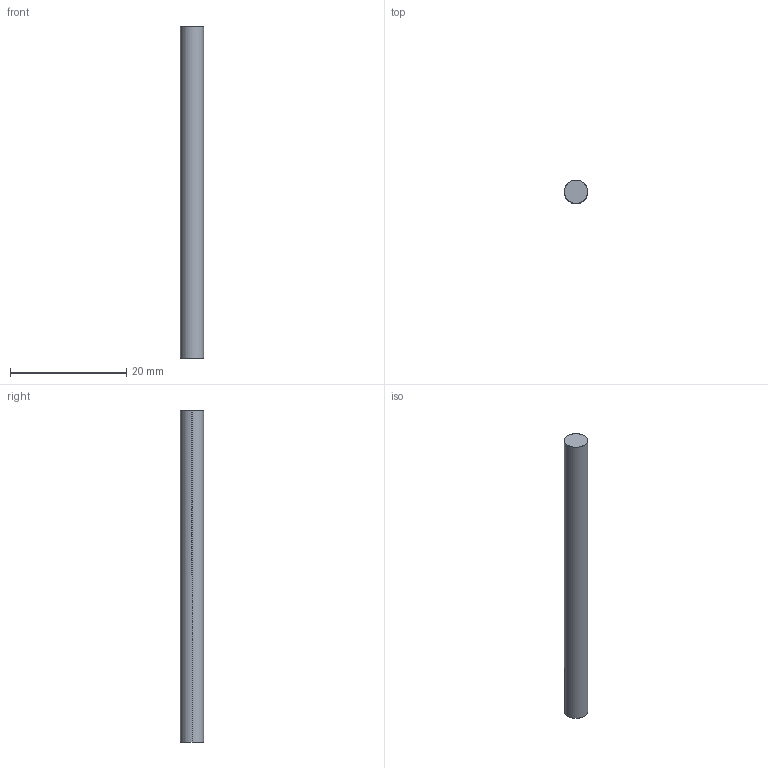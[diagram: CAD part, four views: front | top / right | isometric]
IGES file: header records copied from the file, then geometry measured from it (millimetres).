
Start section: SolidWorks IGES file using analytic representation for surfaces
Global section: file name: Z:\Mes documents\ATAO iges\Gamme CX\CX 421\421.030.00.IGS; native system: SolidWorks 2008; preprocessor: SolidWorks 2008; author: cbrechard; date: 110629.085735; units: millimetre
Bounding box: 4 x 4 x 57 mm (x, y, z)
Surface area: 741.4 mm2 (no closed solid volume)
Topology: 0 solids, 0 shells, 4 faces, 72 edges, 72 vertices
Faces by surface type: revolution 2, bspline 2
